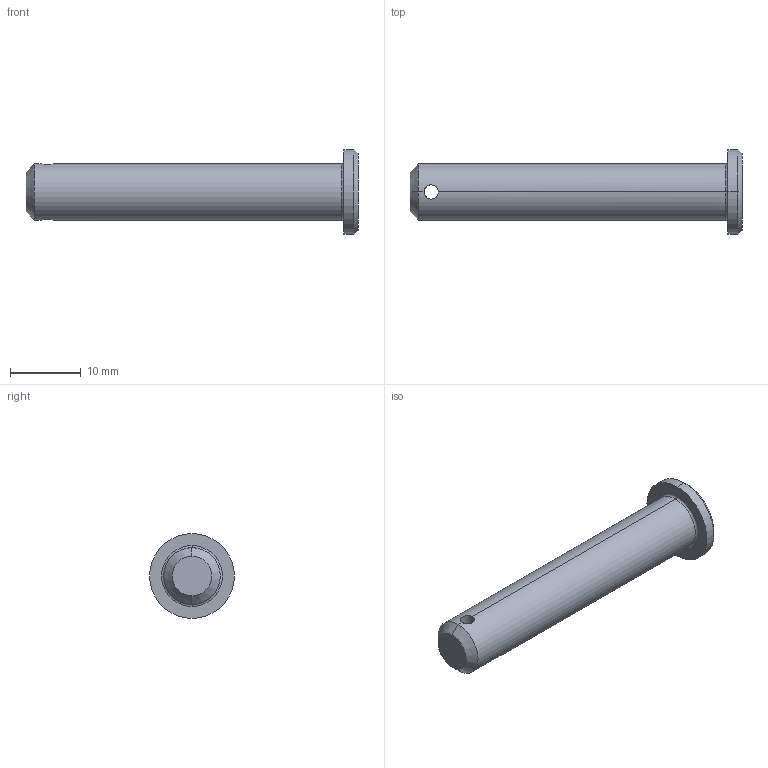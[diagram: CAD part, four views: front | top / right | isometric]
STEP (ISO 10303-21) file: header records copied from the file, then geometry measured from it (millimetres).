
FILE_DESCRIPTION (( 'STEP AP203' ), '1' );
FILE_NAME ('Wiberger-sms2360_8x45.step', '2012-10-09T08:59:07', ( 'Magnus' ), ( 'Wiberger' ), 'SwSTEP 2.0', 'SolidWorks 2011', '' );
FILE_SCHEMA (( 'CONFIG_CONTROL_DESIGN' ));
Length unit declared in the file: millimetre
Products named in the file (1): Wiberger-sms2360_8x45
Bounding box: 47 x 12 x 12 mm (x, y, z)
Volume: 2440.9 mm3; surface area: 1439.2 mm2
Topology: 1 solids, 1 shells, 15 faces, 32 edges, 18 vertices
Faces by surface type: cylinder 6, cone 4, plane 3, torus 2
Entity records: 543 total; most frequent: CARTESIAN_POINT 134, DIRECTION 76, ORIENTED_EDGE 64, AXIS2_PLACEMENT_3D 32, EDGE_CURVE 32, VERTEX_POINT 18, CIRCLE 16, EDGE_LOOP 16
